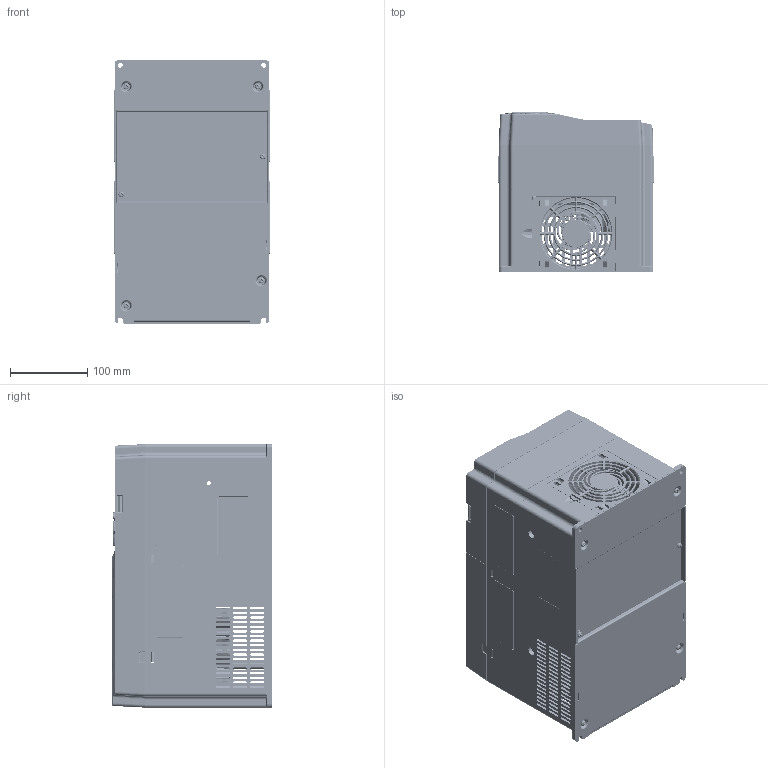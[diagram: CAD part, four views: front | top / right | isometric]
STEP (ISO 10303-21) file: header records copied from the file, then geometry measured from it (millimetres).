
FILE_DESCRIPTION((''),'2;1');
FILE_NAME('Open CASCADE Shape Model','2021-03-30T08:56:18',( 'Administrator'),(''),'Open CASCADE STEP processor 7.6', 'PRO/ENGINEER BY PARAMETRIC TECHNOLOGY CORPORATION, 2010100','Unknown' );
FILE_SCHEMA(('AUTOMOTIVE_DESIGN_CC2 { 1 2 10303 214 -1 1 5 4 }'));
Length unit declared in the file: millimetre
Products named in the file (37): GD350-022G-4_ASM; 80710014; 80740124; 80780039; 80880161; 80740186; 80740185; 80880501; 80780080; 80810110; 80810111; 80810111SY; 70610262; 80310325; 86050540; GD350-022G-4-ES_ASM; FAN-CONN_ASM; FAN-CONN-1; FAN-CONN-2; 80740019; GD350-022G-4-FS_ASM; GB9074_4_M4X12; GB6560_M5X16; 77340010; KEY-LCD01-ZY-350_ASM; 80740163; 40810091_ASM; 80740162; 80880456; 80880456SY; 80740164; 80740164SY; KEY-LCD01-ZY-350-ES_ASM; 36002-00065; 39009-00082; 17003-02723_20180403_ASM; 17003-02723_20180403
Assembly tree (49 placements, depth 5):
  GD350-022G-4_ASM
    80710014
    80740124
    80780039
    80880161
    80740186
    80740185
    80880501
    80780080
    80810110
    80810111
    80810111SY
    70610262
    80310325
    86050540
    GD350-022G-4-ES_ASM
      FAN-CONN_ASM
        FAN-CONN-1
        FAN-CONN-2
      80740019  x4
    GD350-022G-4-FS_ASM
      GB9074_4_M4X12  x10
      GB6560_M5X16  x2
      77340010
    KEY-LCD01-ZY-350_ASM
      80740163
      40810091_ASM
        80740162
        80880456
        80880456SY
      80740164
      80740164SY
      KEY-LCD01-ZY-350-ES_ASM
        36002-00065
        39009-00082
        17003-02723_20180403_ASM
          17003-02723_20180403
Bounding box: 200.6 x 207.15 x 340.95 mm (x, y, z)
Volume: 2311165 mm3; surface area: 2068678 mm2
Topology: 45 solids, 45 shells, 17350 faces, 48813 edges, 31654 vertices
Faces by surface type: plane 9718, cylinder 4878, torus 1133, cone 585, bspline 581, extrusion 336, sphere 119
Entity records: 595156 total; most frequent: CARTESIAN_POINT 156069, ORIENTED_EDGE 95240, DIRECTION 85912, EDGE_CURVE 47620, VECTOR 32084, LINE 31748, VERTEX_POINT 30926, AXIS2_PLACEMENT_3D 26914
